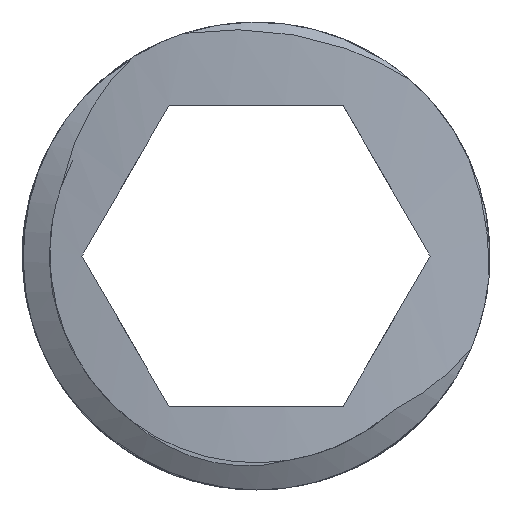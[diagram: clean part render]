
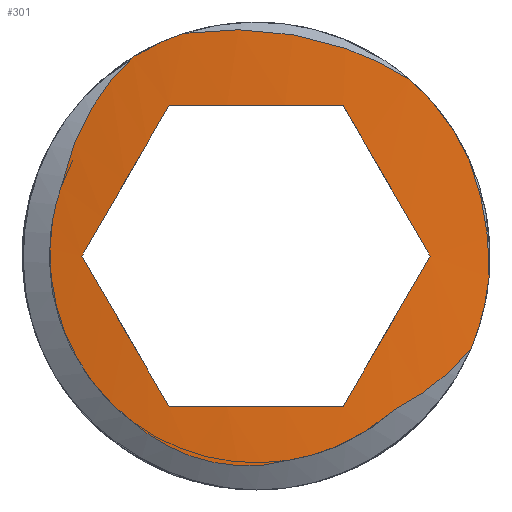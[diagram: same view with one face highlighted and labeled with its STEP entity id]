
A CAD part, left-side view. The second image highlights one B-rep face of the part: STEP entity #301.
In plain terms, the highlighted cylindrical face has radius 7.07 mm (diameter 14.14 mm), a partial arc.
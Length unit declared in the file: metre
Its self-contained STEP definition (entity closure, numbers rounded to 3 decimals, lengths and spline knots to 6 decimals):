
#25=CIRCLE('',#331,0.00707);
#26=CIRCLE('',#337,0.00707);
#31=ELLIPSE('',#333,0.01414,0.00707);
#32=ELLIPSE('',#335,0.01414,0.00707);
#33=ELLIPSE('',#339,0.01414,0.00707);
#34=ELLIPSE('',#341,0.01414,0.00707);
#95=ORIENTED_EDGE('',*,*,#174,.F.);
#96=ORIENTED_EDGE('',*,*,#175,.F.);
#97=ORIENTED_EDGE('',*,*,#153,.F.);
#98=ORIENTED_EDGE('',*,*,#176,.F.);
#99=ORIENTED_EDGE('',*,*,#177,.F.);
#100=ORIENTED_EDGE('',*,*,#178,.F.);
#101=ORIENTED_EDGE('',*,*,#179,.F.);
#102=ORIENTED_EDGE('',*,*,#180,.F.);
#103=ORIENTED_EDGE('',*,*,#181,.F.);
#104=ORIENTED_EDGE('',*,*,#182,.F.);
#105=ORIENTED_EDGE('',*,*,#167,.F.);
#106=ORIENTED_EDGE('',*,*,#165,.F.);
#107=ORIENTED_EDGE('',*,*,#163,.F.);
#108=ORIENTED_EDGE('',*,*,#173,.F.);
#109=ORIENTED_EDGE('',*,*,#171,.F.);
#110=ORIENTED_EDGE('',*,*,#169,.F.);
#153=EDGE_CURVE('',#199,#200,#231,.T.);
#163=EDGE_CURVE('',#208,#209,#25,.T.);
#165=EDGE_CURVE('',#209,#210,#31,.T.);
#167=EDGE_CURVE('',#210,#211,#32,.T.);
#169=EDGE_CURVE('',#211,#212,#26,.T.);
#171=EDGE_CURVE('',#212,#213,#33,.T.);
#173=EDGE_CURVE('',#213,#208,#34,.T.);
#174=EDGE_CURVE('',#214,#215,#234,.T.);
#175=EDGE_CURVE('',#200,#214,#235,.F.);
#176=EDGE_CURVE('',#216,#199,#236,.T.);
#177=EDGE_CURVE('',#217,#216,#237,.T.);
#178=EDGE_CURVE('',#218,#217,#238,.T.);
#179=EDGE_CURVE('',#219,#218,#239,.T.);
#180=EDGE_CURVE('',#220,#219,#240,.T.);
#181=EDGE_CURVE('',#221,#220,#241,.T.);
#182=EDGE_CURVE('',#215,#221,#242,.T.);
#199=VERTEX_POINT('',#491);
#200=VERTEX_POINT('',#496);
#208=VERTEX_POINT('',#552);
#209=VERTEX_POINT('',#554);
#210=VERTEX_POINT('',#558);
#211=VERTEX_POINT('',#562);
#212=VERTEX_POINT('',#566);
#213=VERTEX_POINT('',#570);
#214=VERTEX_POINT('',#579);
#215=VERTEX_POINT('',#580);
#216=VERTEX_POINT('',#589);
#217=VERTEX_POINT('',#594);
#218=VERTEX_POINT('',#599);
#219=VERTEX_POINT('',#604);
#220=VERTEX_POINT('',#609);
#221=VERTEX_POINT('',#614);
#231=B_SPLINE_CURVE_WITH_KNOTS('',3,(#492,#493,#494,#495),.UNSPECIFIED.,
 .F.,.F.,(4,4),(0.,0.000468),.UNSPECIFIED.);
#234=B_SPLINE_CURVE_WITH_KNOTS('',3,(#575,#576,#577,#578),.UNSPECIFIED.,
 .F.,.F.,(4,4),(0.,0.000749),
 .UNSPECIFIED.);
#235=B_SPLINE_CURVE_WITH_KNOTS('',3,(#581,#582,#583,#584),.UNSPECIFIED.,
 .F.,.F.,(4,4),(0.,1.),.UNSPECIFIED.);
#236=B_SPLINE_CURVE_WITH_KNOTS('',3,(#585,#586,#587,#588),.UNSPECIFIED.,
 .F.,.F.,(4,4),(0.,0.000758),
 .UNSPECIFIED.);
#237=B_SPLINE_CURVE_WITH_KNOTS('',3,(#590,#591,#592,#593),.UNSPECIFIED.,
 .F.,.F.,(4,4),(0.,0.000629),.UNSPECIFIED.);
#238=B_SPLINE_CURVE_WITH_KNOTS('',3,(#595,#596,#597,#598),.UNSPECIFIED.,
 .F.,.F.,(4,4),(0.,0.001479),.UNSPECIFIED.);
#239=B_SPLINE_CURVE_WITH_KNOTS('',3,(#600,#601,#602,#603),.UNSPECIFIED.,
 .F.,.F.,(4,4),(0.,1.),.UNSPECIFIED.);
#240=B_SPLINE_CURVE_WITH_KNOTS('',3,(#605,#606,#607,#608),.UNSPECIFIED.,
 .F.,.F.,(4,4),(0.,0.000945),.UNSPECIFIED.);
#241=B_SPLINE_CURVE_WITH_KNOTS('',3,(#610,#611,#612,#613),.UNSPECIFIED.,
 .F.,.F.,(4,4),(0.,0.001651),.UNSPECIFIED.);
#242=B_SPLINE_CURVE_WITH_KNOTS('',3,(#615,#616,#617,#618),.UNSPECIFIED.,
 .F.,.F.,(4,4),(0.,0.001051),.UNSPECIFIED.);
#260=EDGE_LOOP('',(#95,#96,#97,#98,#99,#100,#101,#102,#103,#104));
#261=EDGE_LOOP('',(#105,#106,#107,#108,#109,#110));
#279=FACE_BOUND('',#260,.T.);
#280=FACE_BOUND('',#261,.T.);
#290=CYLINDRICAL_SURFACE('',#342,0.00707);
#301=ADVANCED_FACE('',(#279,#280),#290,.T.);
#331=AXIS2_PLACEMENT_3D('',#553,#370,#371);
#333=AXIS2_PLACEMENT_3D('',#557,#375,#376);
#335=AXIS2_PLACEMENT_3D('',#561,#380,#381);
#337=AXIS2_PLACEMENT_3D('',#565,#385,#386);
#339=AXIS2_PLACEMENT_3D('',#569,#390,#391);
#341=AXIS2_PLACEMENT_3D('',#573,#395,#396);
#342=AXIS2_PLACEMENT_3D('',#574,#397,#398);
#370=DIRECTION('',(0.,0.,1.));
#371=DIRECTION('',(0.,1.,0.));
#375=DIRECTION('',(0.,0.866,0.5));
#376=DIRECTION('',(0.,0.5,-0.866));
#380=DIRECTION('',(0.,0.866,-0.5));
#381=DIRECTION('',(0.,0.5,0.866));
#385=DIRECTION('',(0.,0.,-1.));
#386=DIRECTION('',(0.,-1.,0.));
#390=DIRECTION('',(0.,-0.866,-0.5));
#391=DIRECTION('',(0.,0.5,-0.866));
#395=DIRECTION('',(0.,-0.866,0.5));
#396=DIRECTION('',(0.,0.5,0.866));
#397=DIRECTION('',(0.,0.,-1.));
#398=DIRECTION('',(1.,0.012,0.));
#491=CARTESIAN_POINT('',(-0.047593,-0.04432,-0.229843));
#492=CARTESIAN_POINT('',(-0.047593,-0.04432,-0.229843));
#493=CARTESIAN_POINT('',(-0.047596,-0.044306,-0.23));
#494=CARTESIAN_POINT('',(-0.047604,-0.044268,-0.230151));
#495=CARTESIAN_POINT('',(-0.047616,-0.044205,-0.230296));
#496=CARTESIAN_POINT('',(-0.047616,-0.044205,-0.230296));
#552=CARTESIAN_POINT('',(-0.047726,-0.042303,-0.230659));
#553=CARTESIAN_POINT('',(-0.040677,-0.042852,-0.230659));
#554=CARTESIAN_POINT('',(-0.047726,-0.0434,-0.230659));
#557=CARTESIAN_POINT('',(-0.040677,-0.042852,-0.231609));
#558=CARTESIAN_POINT('',(-0.047661,-0.043949,-0.229709));
#561=CARTESIAN_POINT('',(-0.040677,-0.042852,-0.227809));
#562=CARTESIAN_POINT('',(-0.047726,-0.0434,-0.228759));
#565=CARTESIAN_POINT('',(-0.040677,-0.042852,-0.228759));
#566=CARTESIAN_POINT('',(-0.047726,-0.042303,-0.228759));
#569=CARTESIAN_POINT('',(-0.040677,-0.042852,-0.227809));
#570=CARTESIAN_POINT('',(-0.047661,-0.041755,-0.229709));
#573=CARTESIAN_POINT('',(-0.040677,-0.042852,-0.231609));
#574=CARTESIAN_POINT('',(-0.040677,-0.042852,-0.21763));
#575=CARTESIAN_POINT('',(-0.047693,-0.043723,-0.230678));
#576=CARTESIAN_POINT('',(-0.047716,-0.043536,-0.230846));
#577=CARTESIAN_POINT('',(-0.047737,-0.043304,-0.230957));
#578=CARTESIAN_POINT('',(-0.047744,-0.043054,-0.230996));
#579=CARTESIAN_POINT('',(-0.047693,-0.043723,-0.230678));
#580=CARTESIAN_POINT('',(-0.047744,-0.043054,-0.230996));
#581=CARTESIAN_POINT('',(-0.047693,-0.043723,-0.230678));
#582=CARTESIAN_POINT('',(-0.04767,-0.043907,-0.230583));
#583=CARTESIAN_POINT('',(-0.047642,-0.044074,-0.230455));
#584=CARTESIAN_POINT('',(-0.047616,-0.044205,-0.230296));
#585=CARTESIAN_POINT('',(-0.047618,-0.044194,-0.229098));
#586=CARTESIAN_POINT('',(-0.047601,-0.044286,-0.229335));
#587=CARTESIAN_POINT('',(-0.047591,-0.044327,-0.229588));
#588=CARTESIAN_POINT('',(-0.047593,-0.04432,-0.229843));
#589=CARTESIAN_POINT('',(-0.047618,-0.044194,-0.229098));
#590=CARTESIAN_POINT('',(-0.04768,-0.04382,-0.228596));
#591=CARTESIAN_POINT('',(-0.047658,-0.04398,-0.228735));
#592=CARTESIAN_POINT('',(-0.047635,-0.044106,-0.228905));
#593=CARTESIAN_POINT('',(-0.047618,-0.044194,-0.229098));
#594=CARTESIAN_POINT('',(-0.04768,-0.04382,-0.228596));
#595=CARTESIAN_POINT('',(-0.047732,-0.042397,-0.228306));
#596=CARTESIAN_POINT('',(-0.047764,-0.042891,-0.228233));
#597=CARTESIAN_POINT('',(-0.047738,-0.043401,-0.22833));
#598=CARTESIAN_POINT('',(-0.04768,-0.04382,-0.228596));
#599=CARTESIAN_POINT('',(-0.047732,-0.042397,-0.228306));
#600=CARTESIAN_POINT('',(-0.047704,-0.042075,-0.228455));
#601=CARTESIAN_POINT('',(-0.047715,-0.042176,-0.228392));
#602=CARTESIAN_POINT('',(-0.047725,-0.042284,-0.228342));
#603=CARTESIAN_POINT('',(-0.047732,-0.042397,-0.228306));
#604=CARTESIAN_POINT('',(-0.047704,-0.042075,-0.228455));
#605=CARTESIAN_POINT('',(-0.04764,-0.041624,-0.229271));
#606=CARTESIAN_POINT('',(-0.047651,-0.04169,-0.228961));
#607=CARTESIAN_POINT('',(-0.047679,-0.041843,-0.228671));
#608=CARTESIAN_POINT('',(-0.047704,-0.042075,-0.228455));
#609=CARTESIAN_POINT('',(-0.04764,-0.041624,-0.229271));
#610=CARTESIAN_POINT('',(-0.047704,-0.042072,-0.230753));
#611=CARTESIAN_POINT('',(-0.047654,-0.041626,-0.23042));
#612=CARTESIAN_POINT('',(-0.047607,-0.041437,-0.229797));
#613=CARTESIAN_POINT('',(-0.04764,-0.041624,-0.229271));
#614=CARTESIAN_POINT('',(-0.047704,-0.042072,-0.230753));
#615=CARTESIAN_POINT('',(-0.047744,-0.043054,-0.230996));
#616=CARTESIAN_POINT('',(-0.047754,-0.042711,-0.231092));
#617=CARTESIAN_POINT('',(-0.047733,-0.042337,-0.230988));
#618=CARTESIAN_POINT('',(-0.047704,-0.042072,-0.230753));
